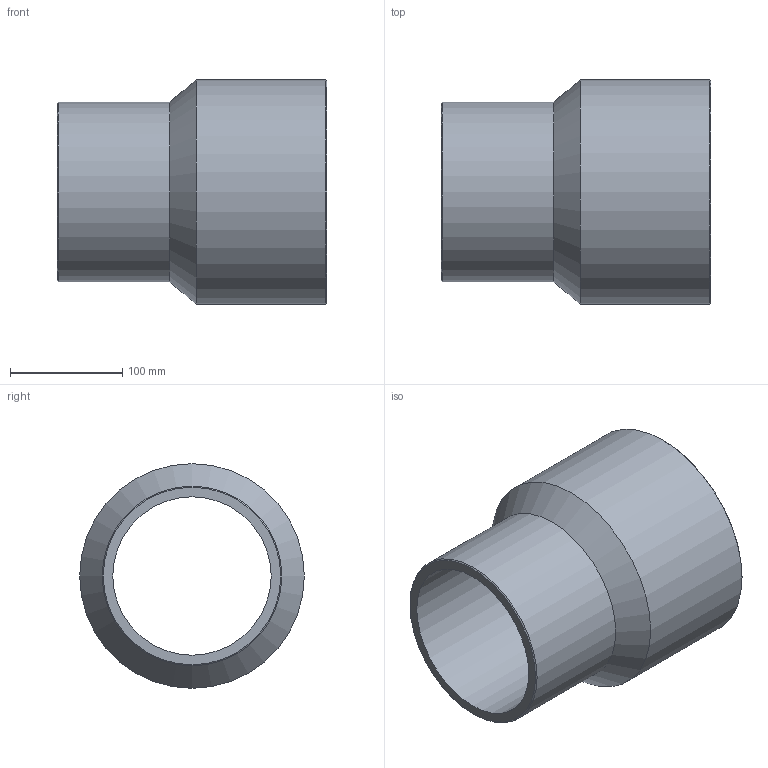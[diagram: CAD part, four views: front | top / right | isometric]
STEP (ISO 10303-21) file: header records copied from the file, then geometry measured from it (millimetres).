
FILE_DESCRIPTION(/* description */ ('Unknown'),/* implementation_level */ '2;1');
FILE_NAME(/* name */ 'RP200160B',/* time_stamp */ '2021-09-17T11:42:59+02:00',/* author */ ('Unknown'),/* organization */ ('Unknown'),/* preprocessor_version */ 'ST-DEVELOPER v16.7',/* originating_system */ 'Solid Edge',/* authorisation */ 'Unknown');
FILE_SCHEMA (('AUTOMOTIVE_DESIGN {1 0 10303 214 3 1 1}'));
Length unit declared in the file: millimetre
Products named in the file (1): RP200160B
Bounding box: 240 x 200 x 200 mm (x, y, z)
Volume: 1507038.3 mm3; surface area: 273503.7 mm2
Topology: 1 solids, 1 shells, 10 faces, 19 edges, 11 vertices
Faces by surface type: cylinder 4, cone 4, plane 2
Full cylindrical faces by diameter (mm): 141 x1, 160 x1, 176.2 x1, 200 x1
Entity records: 238 total; most frequent: DIRECTION 42, CARTESIAN_POINT 31, AXIS2_PLACEMENT_3D 21, ORIENTED_EDGE 20, EDGE_LOOP 20, FACE_BOUND 20, EDGE_CURVE 10, VERTEX_POINT 10
